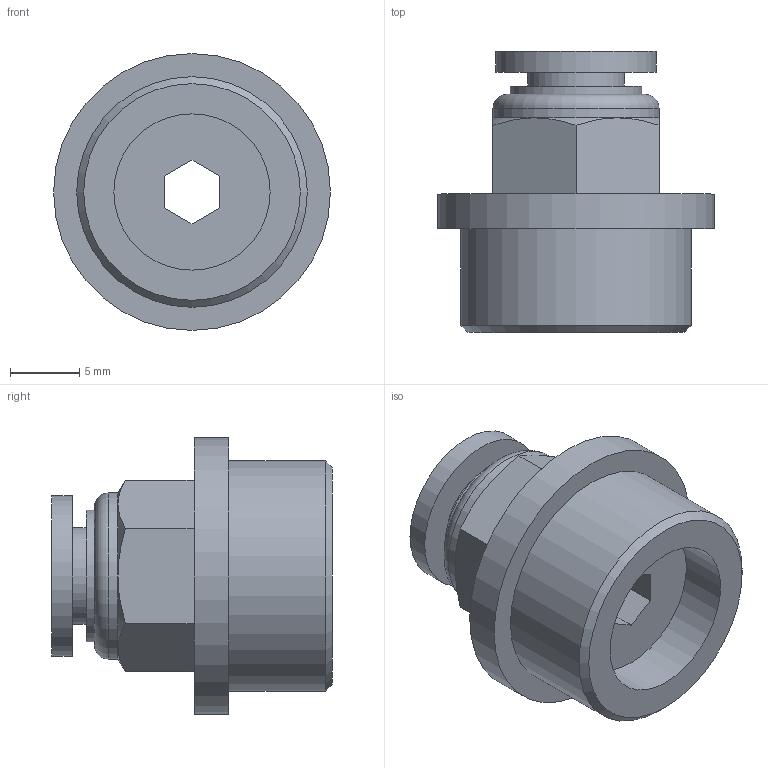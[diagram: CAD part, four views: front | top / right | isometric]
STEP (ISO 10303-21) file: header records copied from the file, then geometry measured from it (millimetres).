
FILE_DESCRIPTION((''),'2;1');
FILE_NAME('S:\UTecnico\ArchivioUT\Speciali Clienti\Speciali KONFIT\DISEGNI 3D\RP\RP 51\RP513806.stp','2013-01-09T09:51:15',('UT5'),(''),'Autodesk Inventor 2012','Autodesk Inventor 2012','');
FILE_SCHEMA(('AUTOMOTIVE_DESIGN { 1 0 10303 214 1 1 1 1 }'));
Length unit declared in the file: millimetre
Products named in the file (1): RP513806
Bounding box: 20 x 20.3 x 20 mm (x, y, z)
Volume: 2729.5 mm3; surface area: 2063.3 mm2
Topology: 1 solids, 1 shells, 37 faces, 76 edges, 48 vertices
Faces by surface type: plane 21, cylinder 8, cone 7, torus 1
Full cylindrical faces by diameter (mm): 6 x1, 7 x1, 9.5 x1, 11.3 x1, 11.6 x1, 12 x1, 16.662 x1, 20 x1
Entity records: 949 total; most frequent: CARTESIAN_POINT 174, DIRECTION 152, ORIENTED_EDGE 130, EDGE_CURVE 65, AXIS2_PLACEMENT_3D 61, EDGE_LOOP 56, VERTEX_POINT 47, FACE_OUTER_BOUND 37
